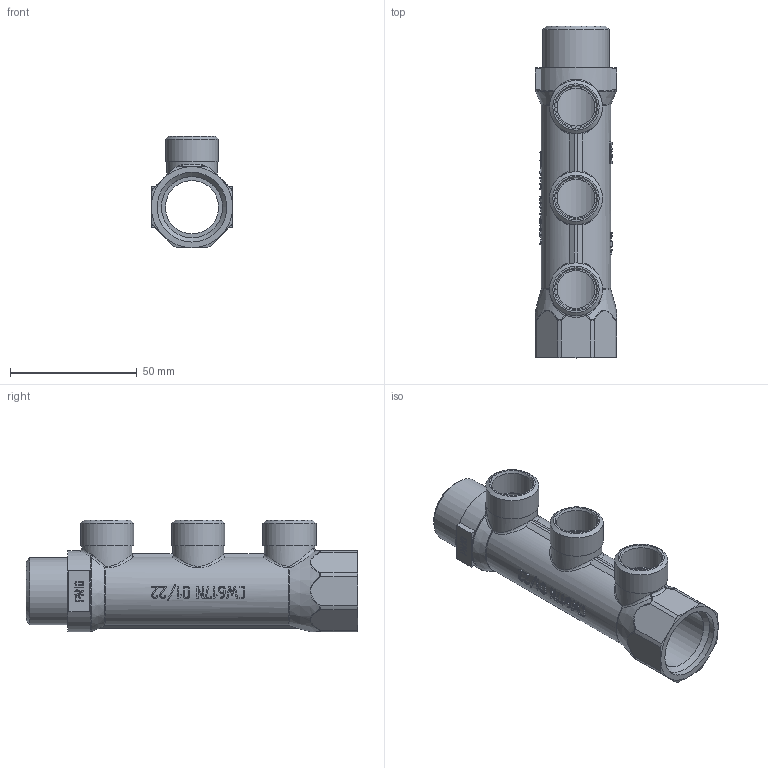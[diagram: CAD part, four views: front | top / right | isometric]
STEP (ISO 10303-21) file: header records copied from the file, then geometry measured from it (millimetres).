
FILE_DESCRIPTION(('STEP AP203'), '1');
FILE_NAME('ÂÐ.732182.023 - VTc.500.N.0503 Êîë. G3-4 (3õG1-2) L131', '2024-07-25T08:40:46', ('IT'), ('VESTA'), 'C3D Converter', 'C3D Toolkit', '');
FILE_SCHEMA(('CONFIG_CONTROL_DESIGN'));
Length unit declared in the file: millimetre
Products named in the file (1): ВР.732182.023
Bounding box: 32 x 131 x 44 mm (x, y, z)
Volume: 32714.4 mm3; surface area: 27186.5 mm2
Topology: 1 solids, 1 shells, 684 faces, 1883 edges, 1238 vertices
Faces by surface type: extrusion 338, plane 237, cylinder 48, bspline 28, cone 19, torus 14
Full cylindrical faces by diameter (mm): 15 x3, 16.1 x3, 20 x3, 20.955 x3, 21 x1, 24.118 x1, 26.441 x1, 27.5 x1, 32 x1
Entity records: 34039 total; most frequent: CARTESIAN_POINT 18628, ORIENTED_EDGE 3704, DIRECTION 2048, EDGE_CURVE 1852, VERTEX_POINT 1238, B_SPLINE_CURVE_WITH_KNOTS 1149, VECTOR 1106, LINE 768
